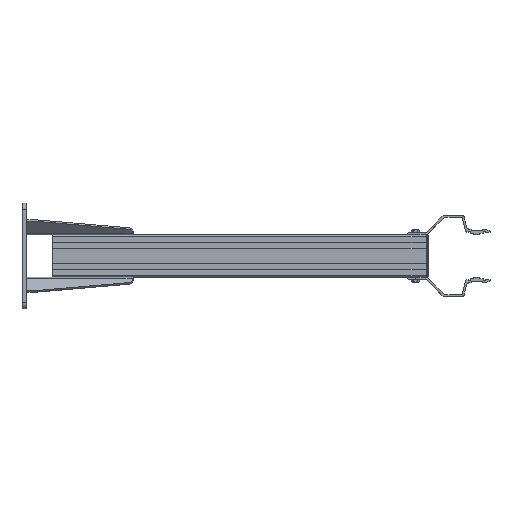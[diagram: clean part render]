
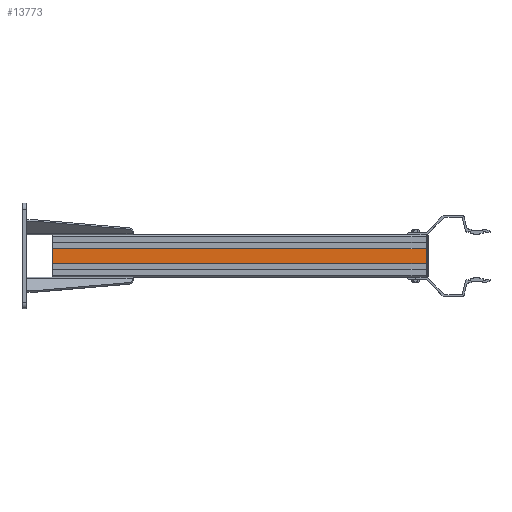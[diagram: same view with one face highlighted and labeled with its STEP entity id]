
A CAD part, top view. The second image highlights one B-rep face of the part: STEP entity #13773.
In plain terms, the highlighted planar face has unit normal (0, 0, 1) as drawn and (-1, 0, 0) by its records, which use the part's own axes.
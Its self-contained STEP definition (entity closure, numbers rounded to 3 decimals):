
#524=PLANE('',#14883);
#1112=FACE_OUTER_BOUND('',#1831,.T.);
#1831=EDGE_LOOP('',(#10456,#10457,#10458,#10459));
#2944=LINE('',#20958,#4476);
#2945=LINE('',#20962,#4477);
#2946=LINE('',#20964,#4478);
#2947=LINE('',#20965,#4479);
#4476=VECTOR('',#17121,10.);
#4477=VECTOR('',#17126,10.);
#4478=VECTOR('',#17127,10.);
#4479=VECTOR('',#17128,10.);
#6367=VERTEX_POINT('',#20955);
#6368=VERTEX_POINT('',#20957);
#6369=VERTEX_POINT('',#20961);
#6370=VERTEX_POINT('',#20963);
#8004=EDGE_CURVE('',#6368,#6367,#2944,.T.);
#8006=EDGE_CURVE('',#6367,#6369,#2945,.T.);
#8007=EDGE_CURVE('',#6370,#6369,#2946,.T.);
#8008=EDGE_CURVE('',#6370,#6368,#2947,.T.);
#10456=ORIENTED_EDGE('',*,*,#8006,.T.);
#10457=ORIENTED_EDGE('',*,*,#8007,.F.);
#10458=ORIENTED_EDGE('',*,*,#8008,.T.);
#10459=ORIENTED_EDGE('',*,*,#8004,.T.);
#13773=ADVANCED_FACE('',(#1112),#524,.T.);
#14883=AXIS2_PLACEMENT_3D('',#20960,#17124,#17125);
#17121=DIRECTION('',(0.,0.,1.));
#17124=DIRECTION('center_axis',(-1.,0.,0.));
#17125=DIRECTION('ref_axis',(0.,0.,1.));
#17126=DIRECTION('',(0.,1.,0.));
#17127=DIRECTION('',(0.,0.,1.));
#17128=DIRECTION('',(0.,-1.,0.));
#20955=CARTESIAN_POINT('',(-40.,-14.,506.));
#20957=CARTESIAN_POINT('',(-40.,-14.,-200.));
#20958=CARTESIAN_POINT('',(-40.,-14.,-200.));
#20960=CARTESIAN_POINT('Origin',(-40.,-14.,-200.));
#20961=CARTESIAN_POINT('',(-40.,14.,506.));
#20962=CARTESIAN_POINT('',(-40.,14.,506.));
#20963=CARTESIAN_POINT('',(-40.,14.,-200.));
#20964=CARTESIAN_POINT('',(-40.,14.,-200.));
#20965=CARTESIAN_POINT('',(-40.,14.,-200.));
